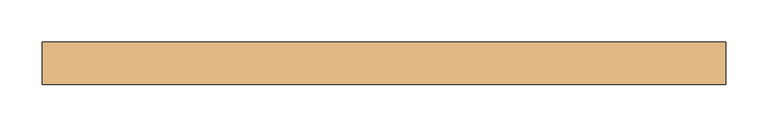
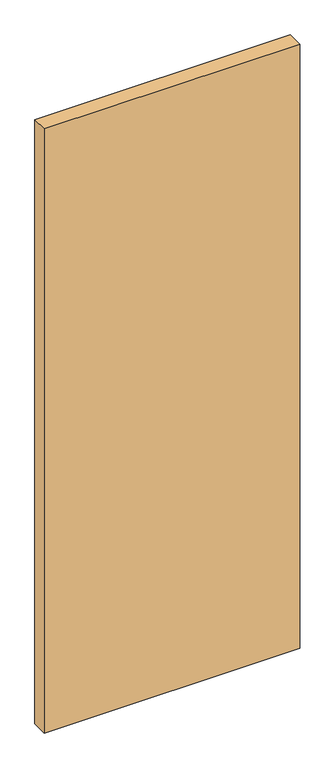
"""IFC4 building model written with IfcOpenShell, lengths in millimetres: door geometry, Planitar - Swap_Flush Panel : Planitar - Swap_Flush Panel."""

from ifc_helpers import new_model, si_unit, origin, origin_with_axes, place, context, project, spatial, polyline, outline, extrude, source, transform, mapped, element, save


def door_f4e0ca5e(model_context):
    return source(origin(), model_context, "Body", "SweptSolid", [
        extrude(outline(polyline([(406.4, 25.4), (406.4, -25.4), (-406.4, -25.4), (-406.4, 25.4), (406.4, 25.4)])), origin_with_axes(), (0.0, 0.0, 1.0), 2032.0),
    ])


if __name__ == "__main__":
    model = new_model("IFC4")
    model_context = context("Model", 3, world=origin())
    ifc_project = project(units=[si_unit("LENGTHUNIT", "METRE", prefix="MILLI")], contexts=[model_context])
    site = spatial("IfcSite", under=ifc_project)
    building = spatial("IfcBuilding", under=site)
    placement = place(None, origin())
    door_shape = door_f4e0ca5e(model_context)
    element("IfcDoor", 1, ObjectType="Planitar - Swap_Flush Panel : Planitar - Swap_Flush Panel", at=placement, inside=building, context=model_context, shape_type="MappedRepresentation", body=[
        mapped(door_shape, transform((0.0, 0.0, 0.0), x_axis=(1.0, 0.0, 0.0), y_axis=(0.0, 1.0, 0.0), z_axis=(0.0, 0.0, 1.0))),
    ])
    save(model, "model.ifc")
